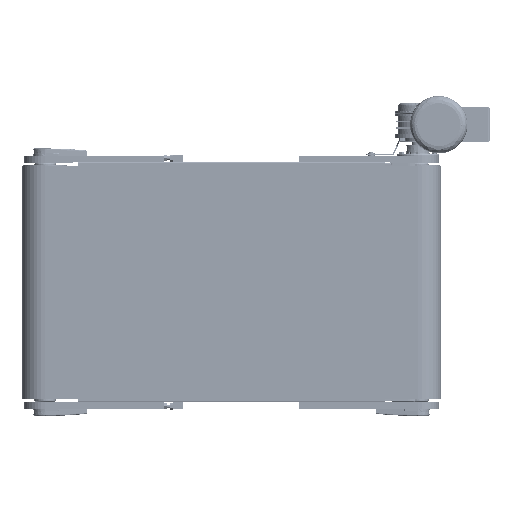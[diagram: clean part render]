
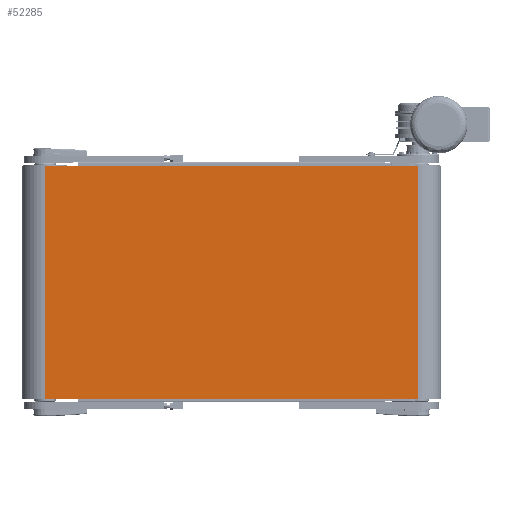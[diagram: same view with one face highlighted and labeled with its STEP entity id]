
A CAD part, front view. The second image highlights one B-rep face of the part: STEP entity #52285.
In plain terms, the highlighted planar face has unit normal (0, -1, 0).
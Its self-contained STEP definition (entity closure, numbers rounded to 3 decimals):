
#304 = DIRECTION ( 'NONE',  ( 1., 0., 0. ) ) ;
#1395 = VERTEX_POINT ( 'NONE', #59497 ) ;
#6096 = EDGE_CURVE ( 'NONE', #1395, #60605, #27802, .T. ) ;
#6470 = VECTOR ( 'NONE', #113745, 1000. ) ;
#19135 = VECTOR ( 'NONE', #51016, 1000. ) ;
#23193 = CARTESIAN_POINT ( 'NONE',  ( -400., -49.5, 250. ) ) ;
#23409 = CARTESIAN_POINT ( 'NONE',  ( -400., -49.5, 250. ) ) ;
#25700 = CARTESIAN_POINT ( 'NONE',  ( -400., -49.5, -250. ) ) ;
#27802 = LINE ( 'NONE', #25700, #6470 ) ;
#35213 = LINE ( 'NONE', #23193, #125549 ) ;
#36288 = DIRECTION ( 'NONE',  ( 0., 0., 1. ) ) ;
#41071 = CARTESIAN_POINT ( 'NONE',  ( 400., -49.5, 250. ) ) ;
#41358 = AXIS2_PLACEMENT_3D ( 'NONE', #90268, #59046, #36288 ) ;
#50411 = EDGE_CURVE ( 'NONE', #52718, #117326, #54298, .T. ) ;
#50939 = ORIENTED_EDGE ( 'NONE', *, *, #6096, .T. ) ;
#51016 = DIRECTION ( 'NONE',  ( 0., 0., -1. ) ) ;
#52285 = ADVANCED_FACE ( 'NONE', ( #80313 ), #102357, .F. ) ;
#52718 = VERTEX_POINT ( 'NONE', #23409 ) ;
#53748 = DIRECTION ( 'NONE',  ( 0., 0., -1. ) ) ;
#54298 = LINE ( 'NONE', #97601, #95422 ) ;
#54483 = EDGE_CURVE ( 'NONE', #117326, #60605, #60295, .T. ) ;
#55876 = ORIENTED_EDGE ( 'NONE', *, *, #54483, .F. ) ;
#59046 = DIRECTION ( 'NONE',  ( 0., 1., 0. ) ) ;
#59497 = CARTESIAN_POINT ( 'NONE',  ( -400., -49.5, -250. ) ) ;
#60295 = LINE ( 'NONE', #41071, #19135 ) ;
#60605 = VERTEX_POINT ( 'NONE', #86138 ) ;
#78409 = EDGE_LOOP ( 'NONE', ( #50939, #55876, #132401, #103567 ) ) ;
#80313 = FACE_OUTER_BOUND ( 'NONE', #78409, .T. ) ;
#86138 = CARTESIAN_POINT ( 'NONE',  ( 400., -49.5, -250. ) ) ;
#90268 = CARTESIAN_POINT ( 'NONE',  ( -400., -49.5, 250. ) ) ;
#95422 = VECTOR ( 'NONE', #304, 1000. ) ;
#97601 = CARTESIAN_POINT ( 'NONE',  ( -400., -49.5, 250. ) ) ;
#102357 = PLANE ( 'NONE',  #41358 ) ;
#103567 = ORIENTED_EDGE ( 'NONE', *, *, #119845, .T. ) ;
#113745 = DIRECTION ( 'NONE',  ( 1., 0., 0. ) ) ;
#117326 = VERTEX_POINT ( 'NONE', #129794 ) ;
#119845 = EDGE_CURVE ( 'NONE', #52718, #1395, #35213, .T. ) ;
#125549 = VECTOR ( 'NONE', #53748, 1000. ) ;
#129794 = CARTESIAN_POINT ( 'NONE',  ( 400., -49.5, 250. ) ) ;
#132401 = ORIENTED_EDGE ( 'NONE', *, *, #50411, .F. ) ;
